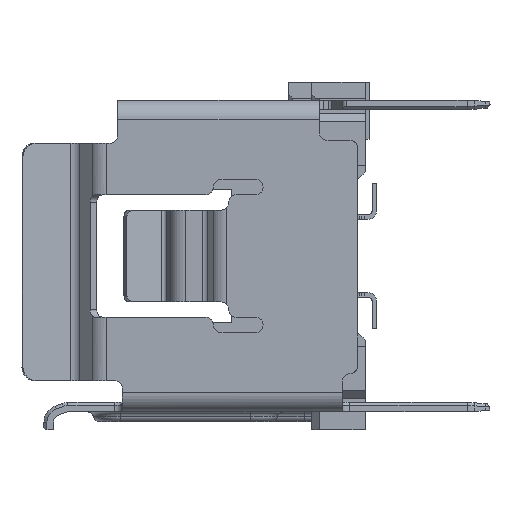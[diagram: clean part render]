
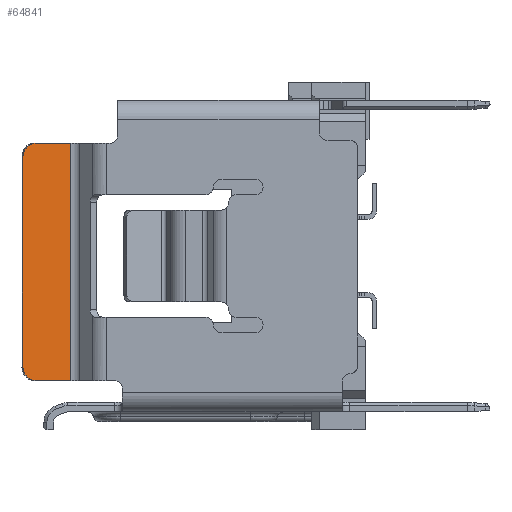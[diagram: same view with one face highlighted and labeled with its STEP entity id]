
A CAD part, left-side view. The second image highlights one B-rep face of the part: STEP entity #64841.
In plain terms, the highlighted planar face has unit normal (-0.985, -0.174, 0).
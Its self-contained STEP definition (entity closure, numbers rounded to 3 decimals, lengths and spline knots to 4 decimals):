
#14757=DIRECTION('',(-0.174,0.985,0.));
#14758=VECTOR('',#14757,0.9216);
#14759=CARTESIAN_POINT('',(-13.0326,7.6917,2.945));
#14760=LINE('',#14759,#14758);
#14811=CARTESIAN_POINT('',(-13.1926,8.5993,2.595));
#14812=DIRECTION('',(0.985,0.174,0.));
#14813=DIRECTION('',(-0.174,0.985,0.));
#14814=AXIS2_PLACEMENT_3D('',#14811,#14812,#14813);
#14816=CARTESIAN_POINT('',(-13.1926,8.5993,-2.905));
#14817=DIRECTION('',(0.985,0.174,0.));
#14818=DIRECTION('',(0.,0.,-1.));
#14819=AXIS2_PLACEMENT_3D('',#14816,#14817,#14818);
#14821=DIRECTION('',(0.,0.,1.));
#14822=VECTOR('',#14821,5.5);
#14823=CARTESIAN_POINT('',(-13.2534,8.944,
-2.905));
#14824=LINE('',#14823,#14822);
#14825=DIRECTION('',(0.,0.,1.));
#14826=VECTOR('',#14825,6.2);
#14827=CARTESIAN_POINT('',(-13.0326,7.6917,-3.255));
#14828=LINE('',#14827,#14826);
#15550=DIRECTION('',(0.174,-0.985,0.));
#15551=VECTOR('',#15550,0.9216);
#15552=CARTESIAN_POINT('',(-13.1926,8.5993,-3.255));
#15553=LINE('',#15552,#15551);
#37926=CARTESIAN_POINT('',(-13.0326,7.6917,2.945));
#37927=VERTEX_POINT('',#37926);
#37928=CARTESIAN_POINT('',(-13.1926,8.5993,2.945));
#37929=VERTEX_POINT('',#37928);
#37936=CARTESIAN_POINT('',(-13.2534,8.944,
2.595));
#37937=VERTEX_POINT('',#37936);
#37943=CARTESIAN_POINT('',(-13.2534,8.944,
-2.905));
#37944=VERTEX_POINT('',#37943);
#37945=CARTESIAN_POINT('',(-13.0326,7.6917,-3.255));
#37946=VERTEX_POINT('',#37945);
#37947=CARTESIAN_POINT('',(-13.1926,8.5993,-3.255));
#37948=VERTEX_POINT('',#37947);
#64825=CARTESIAN_POINT('',(-13.2534,8.944,2.945));
#64826=DIRECTION('',(-0.985,-0.174,0.));
#64827=DIRECTION('',(0.174,-0.985,0.));
#64828=AXIS2_PLACEMENT_3D('',#64825,#64826,#64827);
#64829=PLANE('',#64828);
#64830=ORIENTED_EDGE('',*,*,#64786,.T.);
#64831=ORIENTED_EDGE('',*,*,#64753,.F.);
#64833=ORIENTED_EDGE('',*,*,#64832,.F.);
#64835=ORIENTED_EDGE('',*,*,#64834,.F.);
#64837=ORIENTED_EDGE('',*,*,#64836,.T.);
#64838=ORIENTED_EDGE('',*,*,#64817,.T.);
#64839=EDGE_LOOP('',(#64830,#64831,#64833,#64835,#64837,#64838));
#64840=FACE_OUTER_BOUND('',#64839,.F.);
#64841=ADVANCED_FACE('',(#64840),#64829,.T.);
#14815=CIRCLE('',#14814,0.35);
#14820=CIRCLE('',#14819,0.35);
#64753=EDGE_CURVE('',#37927,#37929,#14760,.T.);
#64786=EDGE_CURVE('',#37937,#37929,#14815,.T.);
#64817=EDGE_CURVE('',#37944,#37937,#14824,.T.);
#64832=EDGE_CURVE('',#37946,#37927,#14828,.T.);
#64834=EDGE_CURVE('',#37948,#37946,#15553,.T.);
#64836=EDGE_CURVE('',#37948,#37944,#14820,.T.);
